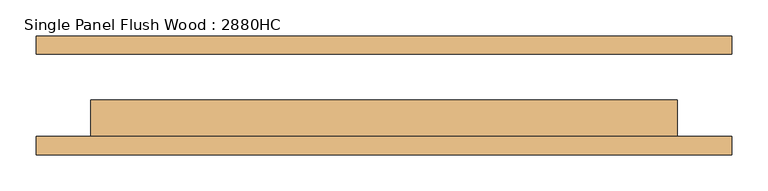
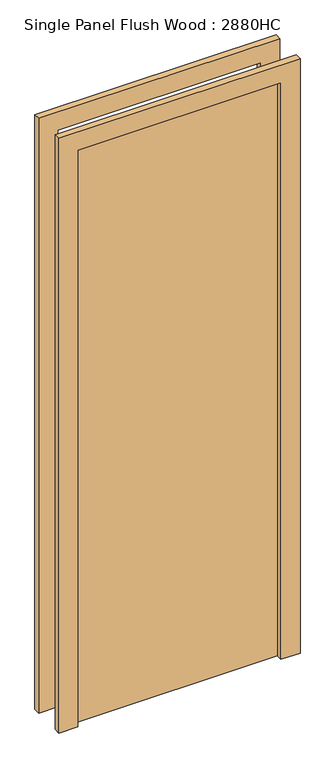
"""IFC4 building model written with IfcOpenShell, lengths in millimetres: door geometry, Single Panel Flush Wood : 2880HC."""

from ifc_helpers import new_model, si_unit, frame, origin, origin_with_axes, place, context, project, spatial, polyline, outline, extrude, source, transform, mapped, element, save


def single_panel_flush_wood_2880hc_d08461d7(model_context):
    return source(origin(), model_context, "Body", "SweptSolid", [
        extrude(outline(polyline([(2514.6, -482.6), (0.0, -482.6), (0.0, -406.4), (2438.4, -406.4), (2438.4, 406.4), (0.0, 406.4), (0.0, 482.6), (2514.6, 482.6), (2514.6, -482.6)])), frame((0.0, -82.55, 0.0), z_axis=(0.0, 1.0, 0.0), x_axis=(0.0, 0.0, 1.0)), (0.0, 0.0, 1.0), 25.4),
        extrude(outline(polyline([(2514.6, 482.6), (2514.6, -482.6), (0.0, -482.6), (0.0, -406.4), (2438.4, -406.4), (2438.4, 406.4), (0.0, 406.4), (0.0, 482.6), (2514.6, 482.6)])), frame((0.0, 57.15, 0.0), z_axis=(0.0, 1.0, 0.0), x_axis=(0.0, 0.0, 1.0)), (0.0, 0.0, 1.0), 25.4),
        extrude(outline(polyline([(406.4, -6.35), (406.4, -57.15), (-406.4, -57.15), (-406.4, -6.35), (406.4, -6.35)])), origin_with_axes(), (0.0, 0.0, 1.0), 2438.4),
    ])


if __name__ == "__main__":
    model = new_model("IFC4")
    model_context = context("Model", 3, world=origin())
    ifc_project = project(units=[si_unit("LENGTHUNIT", "METRE", prefix="MILLI")], contexts=[model_context])
    site = spatial("IfcSite", under=ifc_project)
    building = spatial("IfcBuilding", under=site)
    placement = place(None, origin())
    single_panel_flush_wood_2880hc_shape = single_panel_flush_wood_2880hc_d08461d7(model_context)
    element("IfcDoor", 1, ObjectType="Single Panel Flush Wood : 2880HC", at=placement, inside=building, context=model_context, shape_type="MappedRepresentation", body=[
        mapped(single_panel_flush_wood_2880hc_shape, transform((0.0, 0.0, 0.0), x_axis=(1.0, 0.0, 0.0), y_axis=(0.0, 1.0, 0.0), z_axis=(0.0, 0.0, 1.0))),
    ])
    save(model, "model.ifc")
